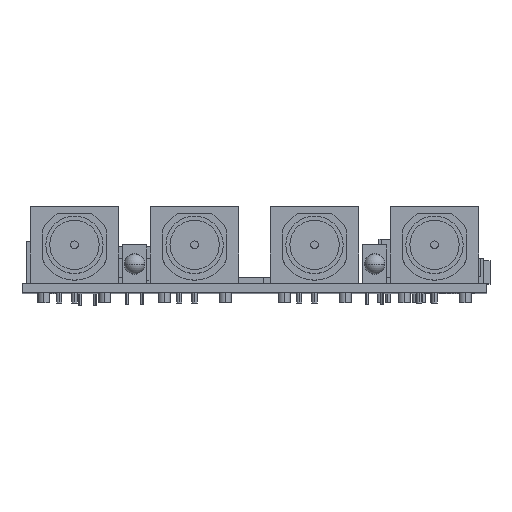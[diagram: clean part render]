
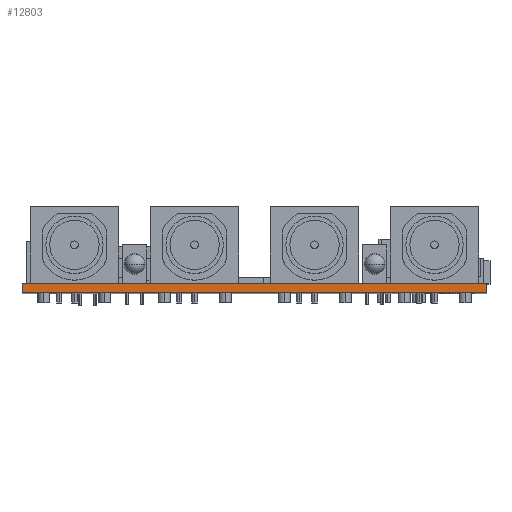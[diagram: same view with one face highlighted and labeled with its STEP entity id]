
A CAD part, top view. The second image highlights one B-rep face of the part: STEP entity #12803.
In plain terms, the highlighted planar face has unit normal (0, 0, 1).
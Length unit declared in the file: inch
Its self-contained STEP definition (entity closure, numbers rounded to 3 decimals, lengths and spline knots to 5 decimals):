
#656 = EDGE_CURVE ( 'NONE', #2673, #2008, #24657, .T. ) ;
#1297 = EDGE_LOOP ( 'NONE', ( #3898, #12726, #11287, #9406 ) ) ;
#1315 = LINE ( 'NONE', #11407, #6491 ) ;
#2008 = VERTEX_POINT ( 'NONE', #7359 ) ;
#2281 = DIRECTION ( 'NONE',  ( 1., 0., 0. ) ) ;
#2661 = VECTOR ( 'NONE', #25266, 39.37008 ) ;
#2673 = VERTEX_POINT ( 'NONE', #19575 ) ;
#3476 = CARTESIAN_POINT ( 'NONE',  ( 1.525, 0.06299, 2.0075 ) ) ;
#3898 = ORIENTED_EDGE ( 'NONE', *, *, #656, .T. ) ;
#5354 = CARTESIAN_POINT ( 'NONE',  ( -1.525, 0.06299, 2.0075 ) ) ;
#6491 = VECTOR ( 'NONE', #11143, 39.37008 ) ;
#7068 = AXIS2_PLACEMENT_3D ( 'NONE', #22462, #22596, #18045 ) ;
#7359 = CARTESIAN_POINT ( 'NONE',  ( 1.525, 0., 2.0075 ) ) ;
#9137 = EDGE_CURVE ( 'NONE', #14799, #2673, #1315, .T. ) ;
#9406 = ORIENTED_EDGE ( 'NONE', *, *, #9137, .T. ) ;
#9653 = VERTEX_POINT ( 'NONE', #13350 ) ;
#11143 = DIRECTION ( 'NONE',  ( 0., -1., 0. ) ) ;
#11287 = ORIENTED_EDGE ( 'NONE', *, *, #17053, .F. ) ;
#11407 = CARTESIAN_POINT ( 'NONE',  ( -1.525, 0.06299, 2.0075 ) ) ;
#12726 = ORIENTED_EDGE ( 'NONE', *, *, #21594, .F. ) ;
#12748 = VECTOR ( 'NONE', #2281, 39.37008 ) ;
#12803 = ADVANCED_FACE ( 'NONE', ( #16202 ), #14619, .F. ) ;
#13235 = LINE ( 'NONE', #17811, #2661 ) ;
#13350 = CARTESIAN_POINT ( 'NONE',  ( 1.525, 0.06299, 2.0075 ) ) ;
#14619 = PLANE ( 'NONE',  #7068 ) ;
#14799 = VERTEX_POINT ( 'NONE', #5354 ) ;
#16202 = FACE_OUTER_BOUND ( 'NONE', #1297, .T. ) ;
#17053 = EDGE_CURVE ( 'NONE', #14799, #9653, #13235, .T. ) ;
#17811 = CARTESIAN_POINT ( 'NONE',  ( -1.525, 0.06299, 2.0075 ) ) ;
#18045 = DIRECTION ( 'NONE',  ( -1., 0., 0. ) ) ;
#19575 = CARTESIAN_POINT ( 'NONE',  ( -1.525, 0., 2.0075 ) ) ;
#19878 = DIRECTION ( 'NONE',  ( 0., -1., 0. ) ) ;
#20234 = CARTESIAN_POINT ( 'NONE',  ( -1.525, 0., 2.0075 ) ) ;
#21435 = LINE ( 'NONE', #3476, #23721 ) ;
#21594 = EDGE_CURVE ( 'NONE', #9653, #2008, #21435, .T. ) ;
#22462 = CARTESIAN_POINT ( 'NONE',  ( -1.525, 0.06299, 2.0075 ) ) ;
#22596 = DIRECTION ( 'NONE',  ( 0., 0., -1. ) ) ;
#23721 = VECTOR ( 'NONE', #19878, 39.37008 ) ;
#24657 = LINE ( 'NONE', #20234, #12748 ) ;
#25266 = DIRECTION ( 'NONE',  ( 1., 0., 0. ) ) ;
